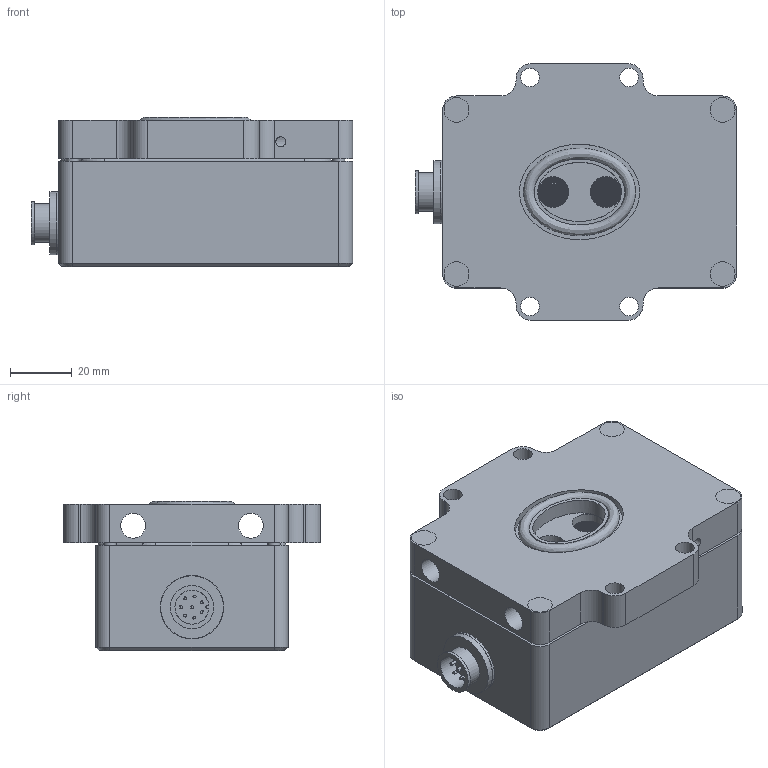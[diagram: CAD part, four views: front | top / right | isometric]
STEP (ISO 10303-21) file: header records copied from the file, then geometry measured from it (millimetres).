
FILE_DESCRIPTION(/* description */ (''),/* implementation_level */ '2;1');
FILE_NAME(/* name */ 'C:\Users\User\Documents\Inventor\BOSCH-Sensor-Typen-A-B-C\ATEX\v11--wie-v10-aber-Aussen-O-Ring-elliptisch\NEO9XXHT--ATEX--step--230414.stp',/* time_stamp */ '2023-04-14T13:11:37+02:00',/* author */ ('User'),/* organization */ (''),/* preprocessor_version */ 'ST-DEVELOPER v17',/* originating_system */ 'Autodesk Inventor 2019',/* authorisation */ '');
FILE_SCHEMA (('CONFIG_CONTROL_DESIGN'));
Products named in the file (15): NEO9XXHT--ATEX; Gasplatte--ATEX--221019--16h55; ATEX-Platinen-Andruckplatte--210819--11h55; Sintermetallscheibe--AD16; O-Ring-innen--210903--13h50; DIN 7991 - M3  x  10; O-Ring-Kappen--201211; Pin-fuer-Platinenverbindung; Kappe-mittelhoch-Logo--200429--09h40; Amphenol-8polige-Durchfuehrung-rear-v2; Amphenol-8pol-Durchfuehrung-Mutter; Amphenol-8-polige-Durchfuehrung-Dichtring; DIN 7991 - M4  x  16; 8mm-Gummistopfen; O-Ring-aussen--24k99x3k53--AS214
Assembly tree (27 placements, depth 2):
  NEO9XXHT--ATEX
    Gasplatte--ATEX--221019--16h55
    ATEX-Platinen-Andruckplatte--210819--11h55
    Sintermetallscheibe--AD16  x2
    O-Ring-innen--210903--13h50
    DIN 7991 - M3  x  10  x4
    O-Ring-Kappen--201211
    Pin-fuer-Platinenverbindung  x4
    Kappe-mittelhoch-Logo--200429--09h40
    Amphenol-8polige-Durchfuehrung-rear-v2
    Amphenol-8pol-Durchfuehrung-Mutter
    Amphenol-8-polige-Durchfuehrung-Dichtring
    DIN 7991 - M4  x  16  x4
    8mm-Gummistopfen  x4
    O-Ring-aussen--24k99x3k53--AS214
Bounding box: 103.7 x 83 x 48.13 mm (x, y, z)
Volume: 139933.8 mm3; surface area: 76881.6 mm2
Topology: 27 solids, 27 shells, 2575 faces, 10486 edges, 8032 vertices
Faces by surface type: cylinder 1986, plane 393, bspline 144, cone 46, torus 6
Full cylindrical faces by diameter (mm): 0.3 x1554, 1.5 x6, 2.5 x4, 3 x4, 3.2 x6, 3.242 x4, 4 x4, 4.2 x4, 5.54 x4, 6 x4, 7.53 x4, 8 x10, 10 x2, 11 x1, 12.5 x1, 14 x1, 14.8 x1, 15.1 x1, 15.7 x2, 20.3 x1, 20.5 x1
Entity records: 71726 total; most frequent: CARTESIAN_POINT 14294, DIRECTION 12189, ORIENTED_EDGE 11724, EDGE_CURVE 5862, AXIS2_PLACEMENT_3D 5191, VERTEX_POINT 4436, CIRCLE 3744, EDGE_LOOP 3198
